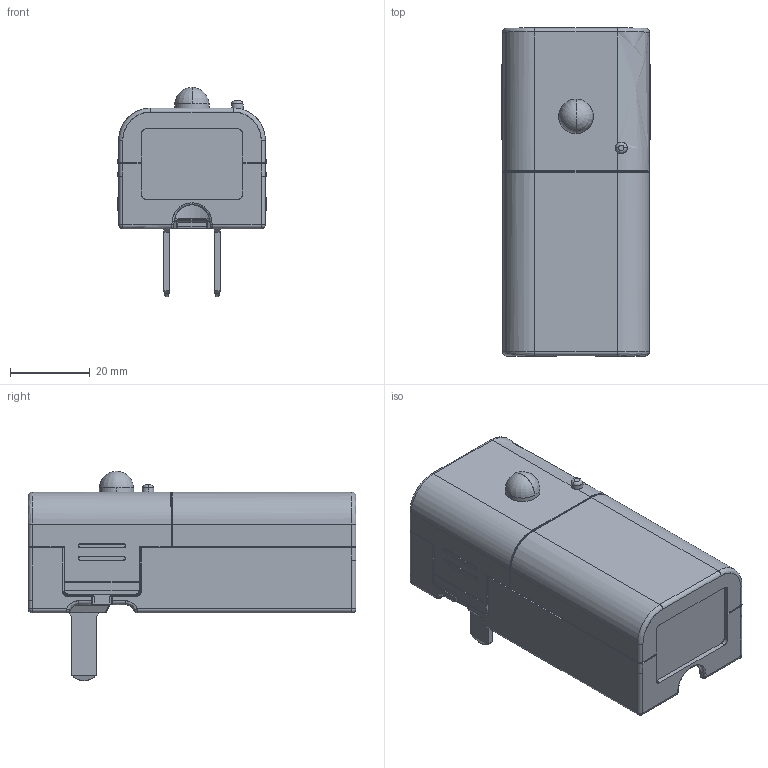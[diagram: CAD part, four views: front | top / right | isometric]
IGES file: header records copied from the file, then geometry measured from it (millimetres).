
Start section: SolidWorks IGES file using analytic representation for surfaces
Global section: file name: C:\Users\komeda\OneDrive\Desktop\ƒvƒ‰ƒO\KD-L2115PJK ’P•iŽd—l _defeature.IGS; native system: SolidWorks 2022; preprocessor: SolidWorks 2022; author: komeda; date: 230707.162538; units: millimetre
Bounding box: 37.28 x 82.15 x 52.45 mm (x, y, z)
Surface area: 16251.4 mm2 (no closed solid volume)
Topology: 0 solids, 0 shells, 703 faces, 5112 edges, 5057 vertices
Faces by surface type: bspline 363, revolution 340
